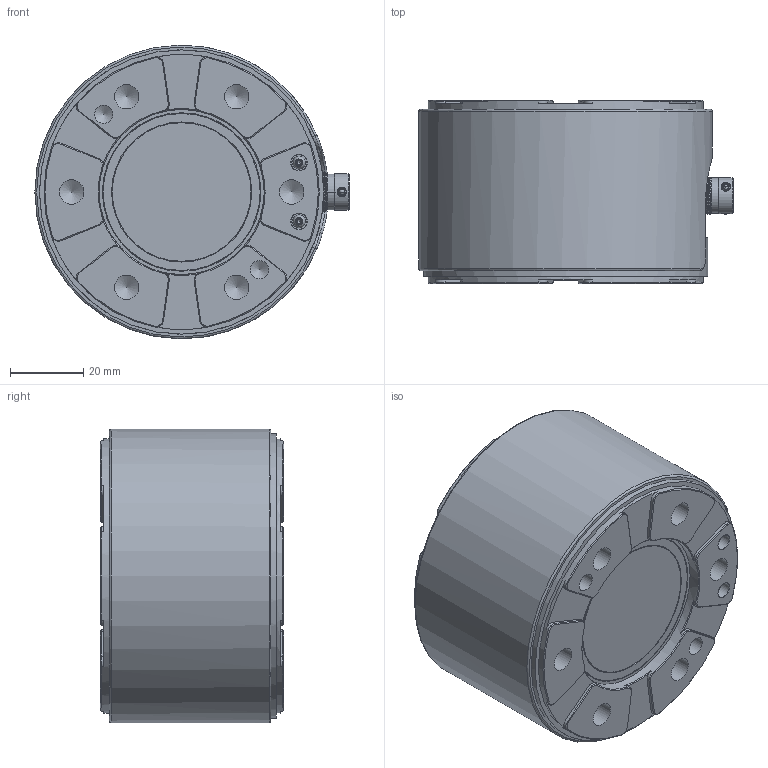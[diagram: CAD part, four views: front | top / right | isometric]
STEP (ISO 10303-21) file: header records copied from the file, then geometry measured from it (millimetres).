
FILE_DESCRIPTION(/* description */ ('Alibre Inc.'),/* implementation_level */ '2;1');
FILE_NAME(/* name */ 'export0',/* time_stamp */ '2016-12-20T13:50:34+01:00',/* author */ (''),/* organization */ (''),/* preprocessor_version */ 'ST-DEVELOPER v14',/* originating_system */ 'Alibre',/* authorisation */ '');
FILE_SCHEMA (('CONFIG_CONTROL_DESIGN'));
Length unit declared in the file: centimetre
Products named in the file (15): ID_1; ID_2; _M1.6x6; _M1.6x8; DIN 934 - d M1.6 - 6; ID_3; 1; ID_4; ID_5; ID_6
Bounding box: 85.65 x 50 x 80 mm (x, y, z)
Volume: 209817.5 mm3; surface area: 61462.8 mm2
Topology: 24 solids, 24 shells, 3664 faces, 9383 edges, 5816 vertices
Faces by surface type: plane 1520, cylinder 1254, cone 442, torus 269, bspline 117, sphere 62
Full cylindrical faces by diameter (mm): 0.55 x24, 0.75 x24, 0.8 x1, 1.1 x1, 1.221 x7, 1.567 x2, 1.6 x7, 1.65 x1, 2 x2, 2.3 x2, 2.6 x1, 2.8 x8, 3 x7, 4.3 x2, 4.5 x3, 5 x12, 5.2 x7, 6.647 x12, 12 x1, 12.5 x1, 18 x1, 36.5 x1, 38 x2, 43 x2, 45 x2, 70 x1, 75 x2, 76 x1, 76.5 x1, 77.5 x1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
Entity records: 129010 total; most frequent: CARTESIAN_POINT 46703, ORIENTED_EDGE 17342, DIRECTION 15238, EDGE_CURVE 8671, AXIS2_PLACEMENT_3D 6123, VERTEX_POINT 5507, VECTOR 4641, LINE 4641
